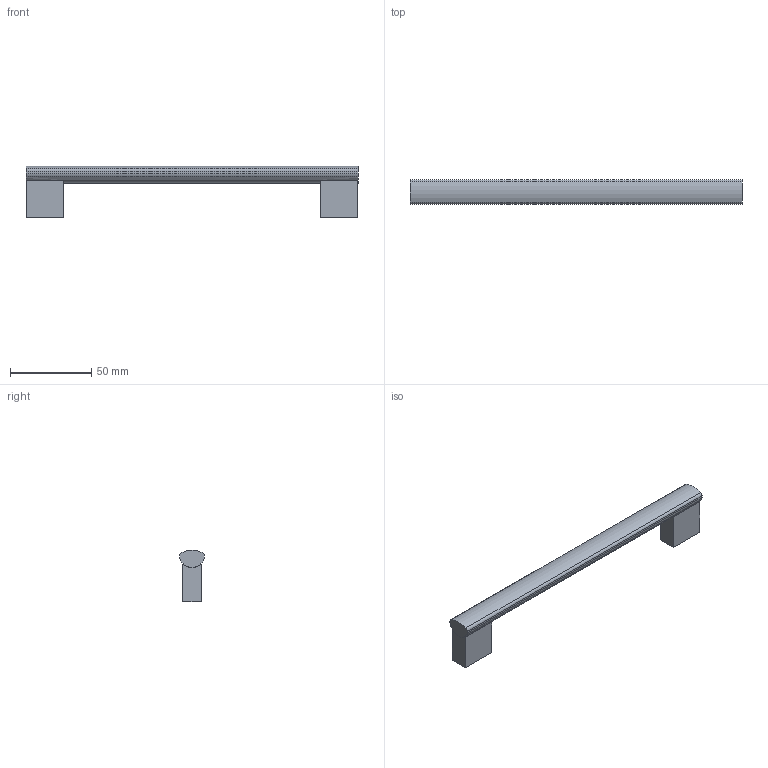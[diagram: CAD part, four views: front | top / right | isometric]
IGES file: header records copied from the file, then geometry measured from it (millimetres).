
Start section: Data from XPlus IGES,  Spatial Corp. Copyright (c) 1999-2004
Global section: file name: 115354.igs; native system:  By Spatial Corp.; preprocessor: XPlus ACIS/IGES 3.0; author: Noname; organization: Noname; date: 20130226.190324; units: millimetre
Bounding box: 204 x 15 x 31.44 mm (x, y, z)
Surface area: 12009.7 mm2 (no closed solid volume)
Topology: 0 solids, 0 shells, 30 faces, 144 edges, 144 vertices
Faces by surface type: extrusion 20, revolution 10
